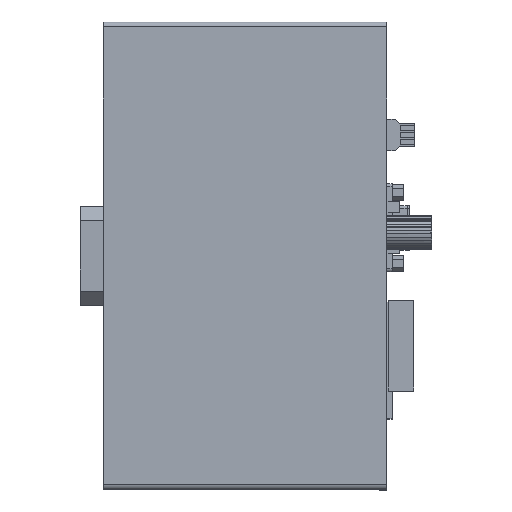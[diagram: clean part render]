
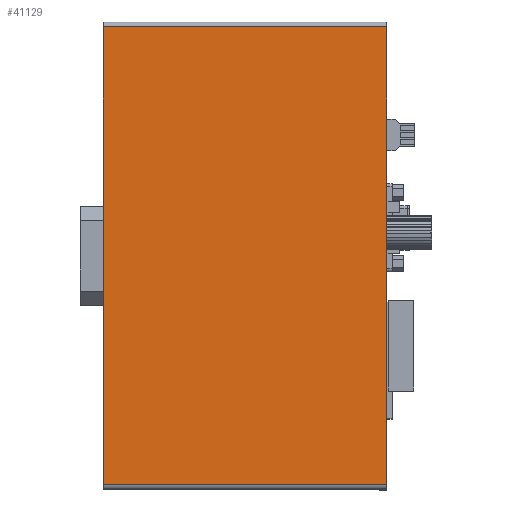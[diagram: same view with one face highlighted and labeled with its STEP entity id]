
A CAD part, top view. The second image highlights one B-rep face of the part: STEP entity #41129.
In plain terms, the highlighted planar face has unit normal (0, 0, 1).
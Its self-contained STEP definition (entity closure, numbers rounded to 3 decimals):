
#5554 = LINE ( 'NONE', #148127, #145353 ) ;
#8763 = CARTESIAN_POINT ( 'NONE',  ( 50., 80.763, 0. ) ) ;
#18921 = EDGE_CURVE ( 'NONE', #125920, #121378, #28638, .T. ) ;
#19620 = DIRECTION ( 'NONE',  ( 1., 0., 0. ) ) ;
#21465 = CARTESIAN_POINT ( 'NONE',  ( 50., 80.763, 0. ) ) ;
#25614 = CARTESIAN_POINT ( 'NONE',  ( -50., 80.763, 0. ) ) ;
#28638 = LINE ( 'NONE', #132976, #71398 ) ;
#35426 = CARTESIAN_POINT ( 'NONE',  ( 50., -80.763, 0. ) ) ;
#41129 = ADVANCED_FACE ( 'NONE', ( #146932 ), #119726, .T. ) ;
#41821 = ORIENTED_EDGE ( 'NONE', *, *, #156657, .T. ) ;
#49311 = LINE ( 'NONE', #152840, #76113 ) ;
#57303 = DIRECTION ( 'NONE',  ( 1., 0., 0. ) ) ;
#66218 = ORIENTED_EDGE ( 'NONE', *, *, #78252, .F. ) ;
#67664 = DIRECTION ( 'NONE',  ( 0., 1., 0. ) ) ;
#71398 = VECTOR ( 'NONE', #67664, 1000. ) ;
#71978 = VERTEX_POINT ( 'NONE', #8763 ) ;
#72673 = ORIENTED_EDGE ( 'NONE', *, *, #18921, .F. ) ;
#73232 = ORIENTED_EDGE ( 'NONE', *, *, #157199, .T. ) ;
#76113 = VECTOR ( 'NONE', #120229, 1000. ) ;
#78252 = EDGE_CURVE ( 'NONE', #71978, #113516, #49311, .T. ) ;
#84075 = DIRECTION ( 'NONE',  ( 0., 0., 1. ) ) ;
#87621 = AXIS2_PLACEMENT_3D ( 'NONE', #123094, #84075, #19620 ) ;
#88410 = LINE ( 'NONE', #21465, #150830 ) ;
#96951 = CARTESIAN_POINT ( 'NONE',  ( -50., -80.763, 0. ) ) ;
#113516 = VERTEX_POINT ( 'NONE', #35426 ) ;
#119726 = PLANE ( 'NONE',  #87621 ) ;
#120229 = DIRECTION ( 'NONE',  ( 0., -1., 0. ) ) ;
#120997 = EDGE_LOOP ( 'NONE', ( #72673, #41821, #66218, #73232 ) ) ;
#121378 = VERTEX_POINT ( 'NONE', #25614 ) ;
#123094 = CARTESIAN_POINT ( 'NONE',  ( 0., 0., 0. ) ) ;
#125920 = VERTEX_POINT ( 'NONE', #96951 ) ;
#132976 = CARTESIAN_POINT ( 'NONE',  ( -50., -82.5, 0. ) ) ;
#145353 = VECTOR ( 'NONE', #57303, 1000. ) ;
#146932 = FACE_OUTER_BOUND ( 'NONE', #120997, .T. ) ;
#148127 = CARTESIAN_POINT ( 'NONE',  ( -50., -80.763, 0. ) ) ;
#150830 = VECTOR ( 'NONE', #152093, 1000. ) ;
#152093 = DIRECTION ( 'NONE',  ( -1., 0., 0. ) ) ;
#152840 = CARTESIAN_POINT ( 'NONE',  ( 50., -82.5, 0. ) ) ;
#156657 = EDGE_CURVE ( 'NONE', #125920, #113516, #5554, .T. ) ;
#157199 = EDGE_CURVE ( 'NONE', #71978, #121378, #88410, .T. ) ;
